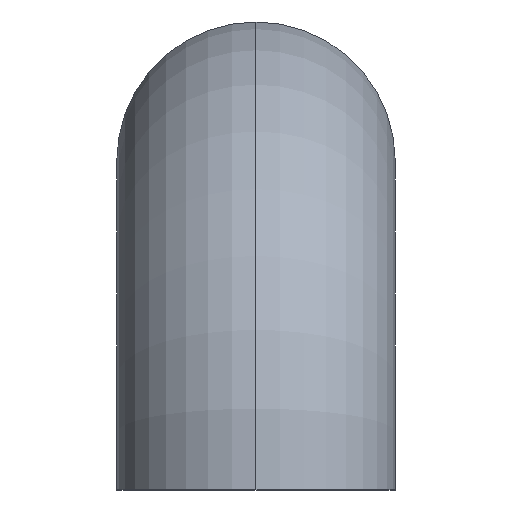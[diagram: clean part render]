
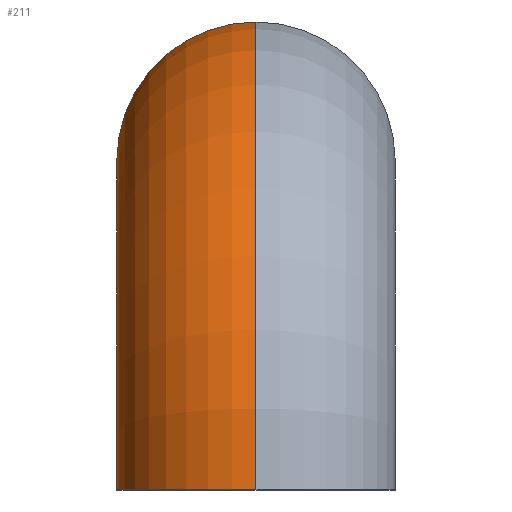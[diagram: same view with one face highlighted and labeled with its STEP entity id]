
A CAD part, left-side view. The second image highlights one B-rep face of the part: STEP entity #211.
In plain terms, the highlighted toroidal (fillet/blend) face has major radius 57 mm and minor radius 24.15 mm.
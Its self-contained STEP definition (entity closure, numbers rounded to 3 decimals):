
#4 = DIRECTION ( 'NONE',  ( 0., 0., 1. ) ) ;
#6 = DIRECTION ( 'NONE',  ( -1., 0., 0. ) ) ;
#17 = VERTEX_POINT ( 'NONE', #349 ) ;
#37 = CARTESIAN_POINT ( 'NONE',  ( 9034., 1900., 5228. ) ) ;
#40 = VERTEX_POINT ( 'NONE', #375 ) ;
#54 = CARTESIAN_POINT ( 'NONE',  ( 9058.15, 1900., 5228. ) ) ;
#61 = CARTESIAN_POINT ( 'NONE',  ( 9091., 1900., 5228. ) ) ;
#65 = EDGE_CURVE ( 'NONE', #155, #17, #292, .T. ) ;
#67 = FACE_OUTER_BOUND ( 'NONE', #212, .T. ) ;
#70 = AXIS2_PLACEMENT_3D ( 'NONE', #189, #294, #6 ) ;
#71 = DIRECTION ( 'NONE',  ( 0., 0., 1. ) ) ;
#88 = CARTESIAN_POINT ( 'NONE',  ( 9009.85, 1900., 5228. ) ) ;
#91 = AXIS2_PLACEMENT_3D ( 'NONE', #37, #71, #202 ) ;
#97 = CIRCLE ( 'NONE', #70, 32.85 ) ;
#107 = ORIENTED_EDGE ( 'NONE', *, *, #197, .T. ) ;
#108 = TOROIDAL_SURFACE ( 'NONE', #249, 57., 24.15 ) ;
#113 = CARTESIAN_POINT ( 'NONE',  ( 9091., 1900., 5228. ) ) ;
#130 = VERTEX_POINT ( 'NONE', #54 ) ;
#144 = CIRCLE ( 'NONE', #271, 24.15 ) ;
#147 = DIRECTION ( 'NONE',  ( -1., 0., 0. ) ) ;
#153 = DIRECTION ( 'NONE',  ( -1., 0., 0. ) ) ;
#155 = VERTEX_POINT ( 'NONE', #88 ) ;
#180 = DIRECTION ( 'NONE',  ( 0., 1., 0. ) ) ;
#184 = AXIS2_PLACEMENT_3D ( 'NONE', #113, #343, #147 ) ;
#188 = DIRECTION ( 'NONE',  ( 0., 0., 1. ) ) ;
#189 = CARTESIAN_POINT ( 'NONE',  ( 9091., 1900., 5228. ) ) ;
#197 = EDGE_CURVE ( 'NONE', #17, #40, #144, .T. ) ;
#202 = DIRECTION ( 'NONE',  ( 1., 0., 0. ) ) ;
#211 = ADVANCED_FACE ( 'NONE', ( #67 ), #108, .T. ) ;
#212 = EDGE_LOOP ( 'NONE', ( #304, #306, #107, #293 ) ) ;
#249 = AXIS2_PLACEMENT_3D ( 'NONE', #61, #180, #188 ) ;
#271 = AXIS2_PLACEMENT_3D ( 'NONE', #350, #153, #4 ) ;
#292 = CIRCLE ( 'NONE', #184, 81.15 ) ;
#293 = ORIENTED_EDGE ( 'NONE', *, *, #394, .F. ) ;
#294 = DIRECTION ( 'NONE',  ( 0., 1., 0. ) ) ;
#304 = ORIENTED_EDGE ( 'NONE', *, *, #323, .T. ) ;
#306 = ORIENTED_EDGE ( 'NONE', *, *, #65, .T. ) ;
#323 = EDGE_CURVE ( 'NONE', #130, #155, #361, .T. ) ;
#343 = DIRECTION ( 'NONE',  ( 0., 1., 0. ) ) ;
#349 = CARTESIAN_POINT ( 'NONE',  ( 9091., 1900., 5309.15 ) ) ;
#350 = CARTESIAN_POINT ( 'NONE',  ( 9091., 1900., 5285. ) ) ;
#361 = CIRCLE ( 'NONE', #91, 24.15 ) ;
#375 = CARTESIAN_POINT ( 'NONE',  ( 9091., 1900., 5260.85 ) ) ;
#394 = EDGE_CURVE ( 'NONE', #130, #40, #97, .T. ) ;
